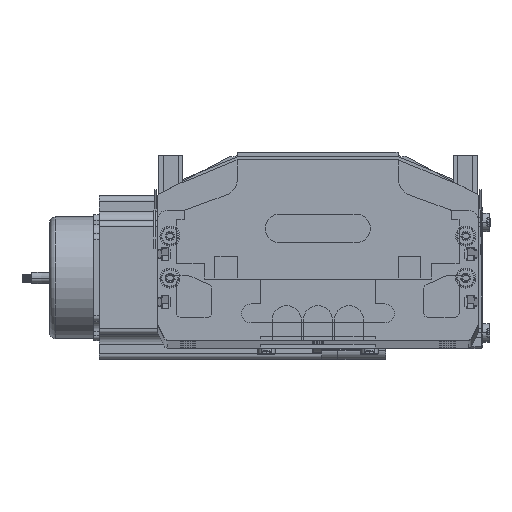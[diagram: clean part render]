
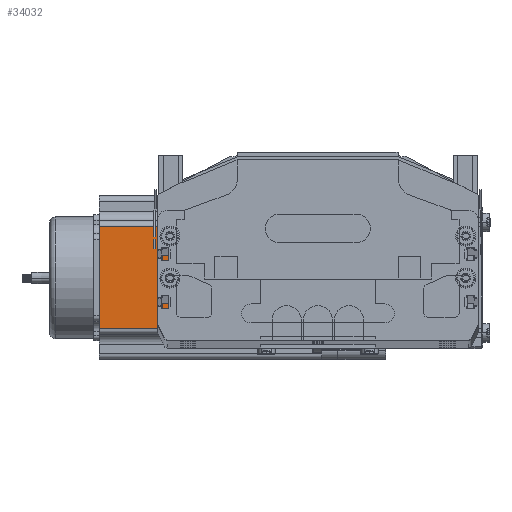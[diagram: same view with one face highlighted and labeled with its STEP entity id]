
A CAD part, top view. The second image highlights one B-rep face of the part: STEP entity #34032.
In plain terms, the highlighted planar face has unit normal (0, 0, 1) as drawn and (0, -1, 0) by its records, which use the part's own axes.
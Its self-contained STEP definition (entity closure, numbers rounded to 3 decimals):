
#28270 = AXIS2_PLACEMENT_3D ( 'NONE', #32351, #34194, #34351 ) ;
#32351 = CARTESIAN_POINT ( 'NONE',  ( 0., 0., 116.5 ) ) ;
#33550 = DIRECTION ( 'NONE',  ( 1., 0., 0. ) ) ;
#33552 = VECTOR ( 'NONE', #33550, 1000. ) ;
#33554 = CARTESIAN_POINT ( 'NONE',  ( 0., 0., 0. ) ) ;
#33555 = LINE ( 'NONE', #33554, #33552 ) ;
#33752 = EDGE_LOOP ( 'NONE', ( #34039, #34034, #33838, #33851 ) ) ;
#33766 = EDGE_CURVE ( 'NONE', #34045, #33833, #33555, .T. ) ;
#33772 = PLANE ( 'NONE',  #28270 ) ;
#33833 = VERTEX_POINT ( 'NONE', #34005 ) ;
#33838 = ORIENTED_EDGE ( 'NONE', *, *, #33933, .F. ) ;
#33851 = ORIENTED_EDGE ( 'NONE', *, *, #33941, .T. ) ;
#33918 = VERTEX_POINT ( 'NONE', #34031 ) ;
#33933 = EDGE_CURVE ( 'NONE', #34013, #33918, #34145, .T. ) ;
#33941 = EDGE_CURVE ( 'NONE', #34013, #34045, #34154, .T. ) ;
#34005 = CARTESIAN_POINT ( 'NONE',  ( 69.74, 0., 0. ) ) ;
#34013 = VERTEX_POINT ( 'NONE', #34200 ) ;
#34032 = ADVANCED_FACE ( 'NONE', ( #34384 ), #33772, .F. ) ;
#34031 = CARTESIAN_POINT ( 'NONE',  ( 69.74, 0., 116.5 ) ) ;
#34034 = ORIENTED_EDGE ( 'NONE', *, *, #34041, .T. ) ;
#34039 = ORIENTED_EDGE ( 'NONE', *, *, #33766, .T. ) ;
#34041 = EDGE_CURVE ( 'NONE', #33833, #33918, #34419, .T. ) ;
#34045 = VERTEX_POINT ( 'NONE', #34444 ) ;
#34145 = LINE ( 'NONE', #34183, #34182 ) ;
#34154 = LINE ( 'NONE', #34216, #34277 ) ;
#34181 = DIRECTION ( 'NONE',  ( 1., 0., 0. ) ) ;
#34182 = VECTOR ( 'NONE', #34181, 1000. ) ;
#34183 = CARTESIAN_POINT ( 'NONE',  ( 0., 0., 116.5 ) ) ;
#34194 = DIRECTION ( 'NONE',  ( 0., 1., 0. ) ) ;
#34200 = CARTESIAN_POINT ( 'NONE',  ( 16.16, 0., 116.5 ) ) ;
#34216 = CARTESIAN_POINT ( 'NONE',  ( 16.16, 0., 116.5 ) ) ;
#34276 = DIRECTION ( 'NONE',  ( 0., 0., -1. ) ) ;
#34277 = VECTOR ( 'NONE', #34276, 1000. ) ;
#34351 = DIRECTION ( 'NONE',  ( 0., 0., 1. ) ) ;
#34384 = FACE_OUTER_BOUND ( 'NONE', #33752, .T. ) ;
#34419 = LINE ( 'NONE', #34643, #34629 ) ;
#34444 = CARTESIAN_POINT ( 'NONE',  ( 16.16, 0., 0. ) ) ;
#34629 = VECTOR ( 'NONE', #34642, 1000. ) ;
#34642 = DIRECTION ( 'NONE',  ( 0., 0., 1. ) ) ;
#34643 = CARTESIAN_POINT ( 'NONE',  ( 69.74, 0., 116.5 ) ) ;
